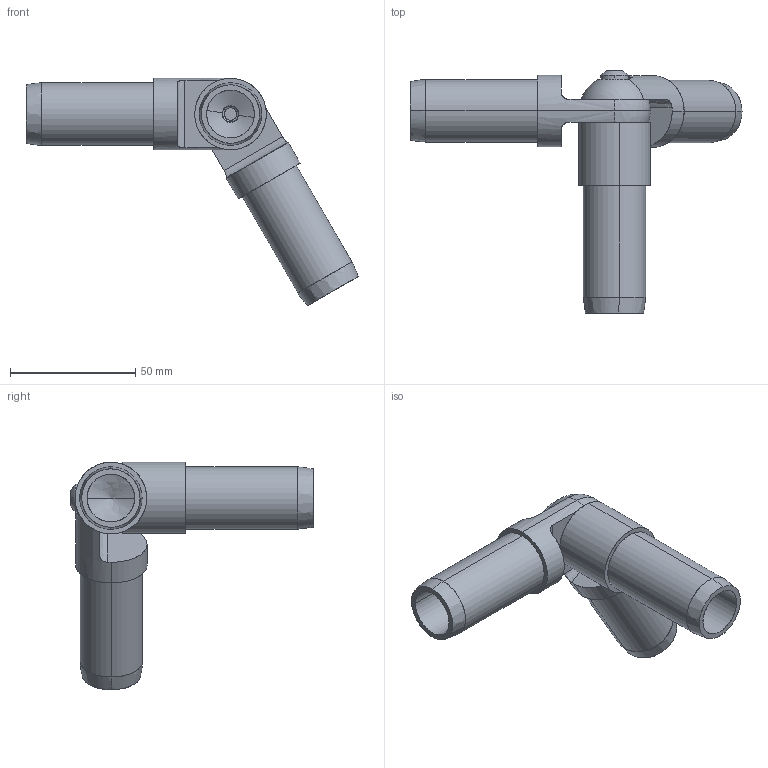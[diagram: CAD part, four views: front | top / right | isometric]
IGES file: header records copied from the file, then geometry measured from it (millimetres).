
Start section: SolidWorks IGES file using analytic representation for surfaces
Global section: file name: \\SERVER3\Design\_New Design Drive Folder List\_Design Vault\AAI\Modular Round Tube Connectors\Solidworks Models\STP Files\12202013\1.000 Inch Modular Connectors\Assemblies\1 Inch Adjustable 90 Degree 3-Tube Joint Kit.IGS; native system: SolidWorks 2013; preprocessor: SolidWorks 2013; author: tbraun; date: 140110.113710; units: inch
Bounding box: 132.61 x 96.75 x 90.85 mm (x, y, z)
Surface area: 35285.8 mm2 (no closed solid volume)
Topology: 0 solids, 0 shells, 222 faces, 3221 edges, 3216 vertices
Faces by surface type: revolution 176, bspline 46
